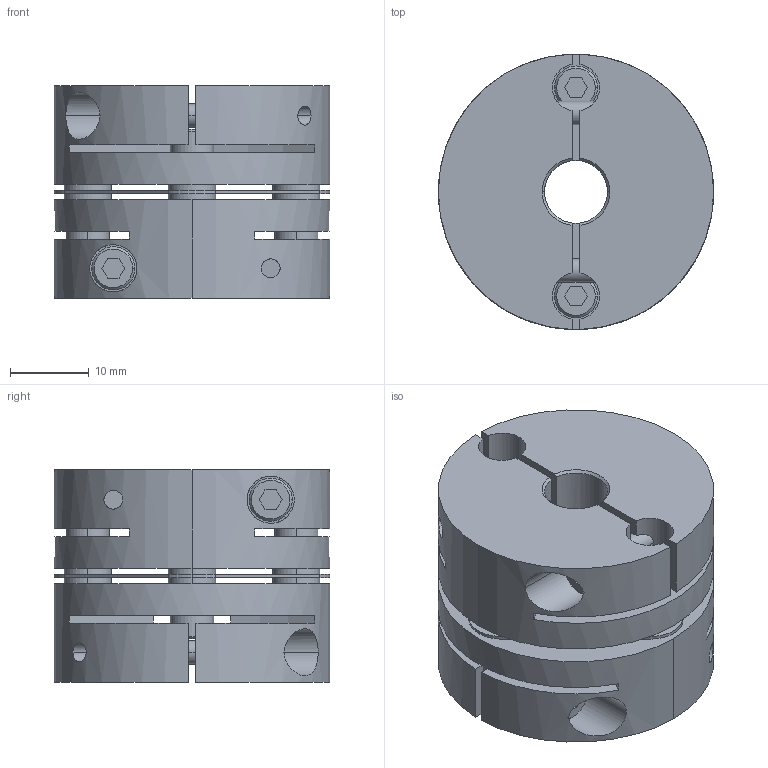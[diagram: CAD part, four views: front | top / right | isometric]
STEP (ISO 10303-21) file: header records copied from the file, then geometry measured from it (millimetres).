
FILE_DESCRIPTION((''),'2;1');
FILE_NAME('LAS-35C-8×12.stp','2011-08-10T16:36:12',(''),(''),'AutoCAD STEP 2000i','AutoCAD 2000i',', , ');
FILE_SCHEMA(('CONFIG_CONTROL_DESIGN'));
Length unit declared in the file: millimetre
Products named in the file (5): LAS-35C-8×8; 忣兜1; LA-3502-D08-1; LA-3502-D08; LAS35-ITA
Assembly tree (4 placements, depth 2):
  LAS-35C-8×8
    忣兜1
    LA-3502-D08-1
    LA-3502-D08
    LAS35-ITA
Bounding box: 35 x 35 x 27 mm (x, y, z)
Volume: 19735.6 mm3; surface area: 12075.8 mm2
Topology: 1 solids, 1 shells, 236 faces, 624 edges, 408 vertices
Faces by surface type: plane 112, cylinder 96, cone 28
Entity records: 8143 total; most frequent: CARTESIAN_POINT 1949, DIRECTION 1302, ORIENTED_EDGE 1248, EDGE_CURVE 624, AXIS2_PLACEMENT_3D 477, VERTEX_POINT 408, VECTOR 348, LINE 348
